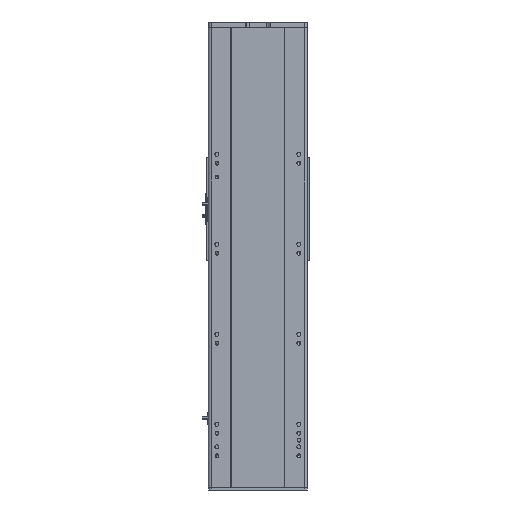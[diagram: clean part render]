
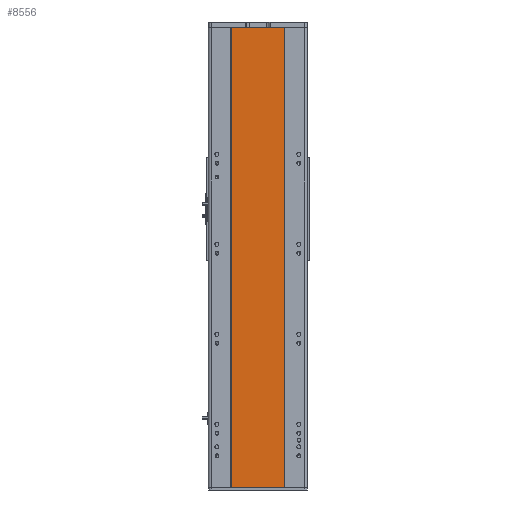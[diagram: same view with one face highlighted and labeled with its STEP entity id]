
A CAD part, front view. The second image highlights one B-rep face of the part: STEP entity #8556.
In plain terms, the highlighted planar face has unit normal (0, -1, 0).
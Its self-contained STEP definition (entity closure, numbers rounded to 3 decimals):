
#1145 = LINE ( 'NONE', #17963, #27633 ) ;
#2605 = EDGE_CURVE ( 'NONE', #9937, #20654, #1145, .T. ) ;
#3377 = EDGE_CURVE ( 'NONE', #8539, #20654, #20402, .T. ) ;
#5699 = CARTESIAN_POINT ( 'NONE',  ( -59., 1., -510.5 ) ) ;
#7340 = VECTOR ( 'NONE', #31288, 1000. ) ;
#7413 = CARTESIAN_POINT ( 'NONE',  ( -59., 1., 510.5 ) ) ;
#7423 = FACE_OUTER_BOUND ( 'NONE', #13146, .T. ) ;
#8182 = CARTESIAN_POINT ( 'NONE',  ( -59., 1., 510.5 ) ) ;
#8473 = VECTOR ( 'NONE', #33012, 1000. ) ;
#8539 = VERTEX_POINT ( 'NONE', #19612 ) ;
#8556 = ADVANCED_FACE ( 'NONE', ( #7423 ), #36660, .F. ) ;
#9925 = AXIS2_PLACEMENT_3D ( 'NONE', #8182, #33888, #11087 ) ;
#9937 = VERTEX_POINT ( 'NONE', #32461 ) ;
#11087 = DIRECTION ( 'NONE',  ( -1., 0., 0. ) ) ;
#12502 = EDGE_CURVE ( 'NONE', #15247, #8539, #23458, .T. ) ;
#13146 = EDGE_LOOP ( 'NONE', ( #23867, #25484, #31840, #29807 ) ) ;
#13700 = EDGE_CURVE ( 'NONE', #15247, #9937, #31403, .T. ) ;
#15247 = VERTEX_POINT ( 'NONE', #34735 ) ;
#16430 = DIRECTION ( 'NONE',  ( 0., 0., -1. ) ) ;
#17963 = CARTESIAN_POINT ( 'NONE',  ( 59., 1., 510.5 ) ) ;
#18662 = CARTESIAN_POINT ( 'NONE',  ( -59., 1., 510.5 ) ) ;
#19612 = CARTESIAN_POINT ( 'NONE',  ( -59., 1., -510.5 ) ) ;
#20402 = LINE ( 'NONE', #5699, #7340 ) ;
#20654 = VERTEX_POINT ( 'NONE', #34666 ) ;
#21542 = DIRECTION ( 'NONE',  ( 0., 0., -1. ) ) ;
#23458 = LINE ( 'NONE', #18662, #28837 ) ;
#23867 = ORIENTED_EDGE ( 'NONE', *, *, #3377, .T. ) ;
#25484 = ORIENTED_EDGE ( 'NONE', *, *, #2605, .F. ) ;
#27633 = VECTOR ( 'NONE', #16430, 1000. ) ;
#28837 = VECTOR ( 'NONE', #21542, 1000. ) ;
#29807 = ORIENTED_EDGE ( 'NONE', *, *, #12502, .T. ) ;
#31288 = DIRECTION ( 'NONE',  ( 1., 0., 0. ) ) ;
#31403 = LINE ( 'NONE', #7413, #8473 ) ;
#31840 = ORIENTED_EDGE ( 'NONE', *, *, #13700, .F. ) ;
#32461 = CARTESIAN_POINT ( 'NONE',  ( 59., 1., 510.5 ) ) ;
#33012 = DIRECTION ( 'NONE',  ( 1., 0., 0. ) ) ;
#33888 = DIRECTION ( 'NONE',  ( 0., 1., 0. ) ) ;
#34666 = CARTESIAN_POINT ( 'NONE',  ( 59., 1., -510.5 ) ) ;
#34735 = CARTESIAN_POINT ( 'NONE',  ( -59., 1., 510.5 ) ) ;
#36660 = PLANE ( 'NONE',  #9925 ) ;
